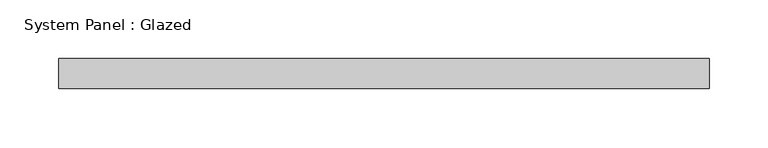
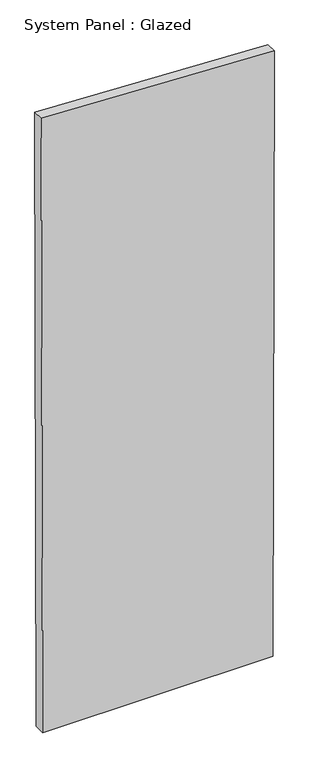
"""IFC4 building model written with IfcOpenShell, lengths in millimetres: plate geometry, System Panel : Glazed."""

from ifc_helpers import new_model, si_unit, frame, origin, place, context, project, spatial, polyline, outline, extrude, source, transform, mapped, element, save


def system_panel_glazed_50119bff(model_context):
    return source(origin(), model_context, "Body", "SweptSolid", [
        extrude(outline(polyline([(0.0, -272.2247348), (0.0, 272.2208178), (1510.9450721, 275.680798), (1535.3227236, -275.680798), (0.0, -272.2247348)])), frame((0.0, -44.45, 0.0), z_axis=(0.0, 1.0, 0.0), x_axis=(0.0, 0.0, 1.0)), (0.0, 0.0, 1.0), 25.4),
    ])


if __name__ == "__main__":
    model = new_model("IFC4")
    model_context = context("Model", 3, world=origin())
    ifc_project = project(units=[si_unit("LENGTHUNIT", "METRE", prefix="MILLI")], contexts=[model_context])
    site = spatial("IfcSite", under=ifc_project)
    building = spatial("IfcBuilding", under=site)
    placement = place(None, origin())
    system_panel_glazed_shape = system_panel_glazed_50119bff(model_context)
    element("IfcPlate", 1, ObjectType="System Panel : Glazed", at=placement, inside=building, context=model_context, shape_type="MappedRepresentation", body=[
        mapped(system_panel_glazed_shape, transform((0.0, 0.0, 0.0), x_axis=(1.0, 0.0, 0.0), y_axis=(0.0, 1.0, 0.0), z_axis=(0.0, 0.0, 1.0))),
    ])
    save(model, "model.ifc")
